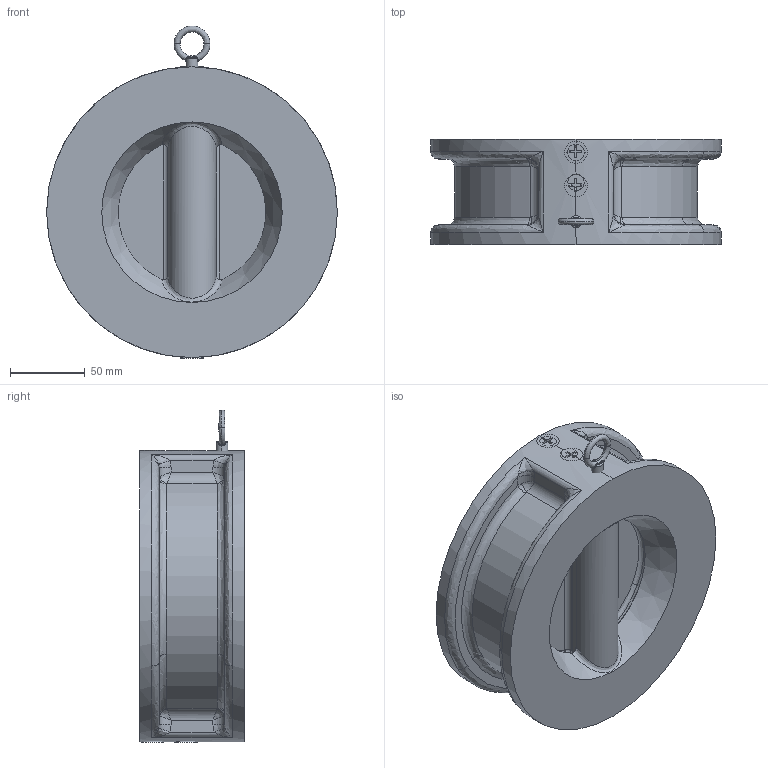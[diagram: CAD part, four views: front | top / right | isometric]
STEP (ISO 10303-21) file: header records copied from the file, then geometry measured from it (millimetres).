
FILE_DESCRIPTION (( 'STEP AP203' ), '1' );
FILE_NAME ('00.STEP', '2017-04-02T09:36:03', ( 'User' ), ( 'shendu' ), 'SwSTEP 2.0', 'SolidWorks 2015', '' );
FILE_SCHEMA (( 'CONFIG_CONTROL_DESIGN' ));
Length unit declared in the file: millimetre
Products named in the file (1): 00
Bounding box: 194 x 70 x 221.5 mm (x, y, z)
Volume: 1010556.6 mm3; surface area: 214160.4 mm2
Topology: 17 solids, 17 shells, 501 faces, 1195 edges, 693 vertices
Faces by surface type: bspline 180, cylinder 159, plane 132, cone 30
Entity records: 111803 total; most frequent: CARTESIAN_POINT 101512, ORIENTED_EDGE 2340, DIRECTION 1758, EDGE_CURVE 1170, VERTEX_POINT 693, AXIS2_PLACEMENT_3D 656, EDGE_LOOP 525, FACE_OUTER_BOUND 501
